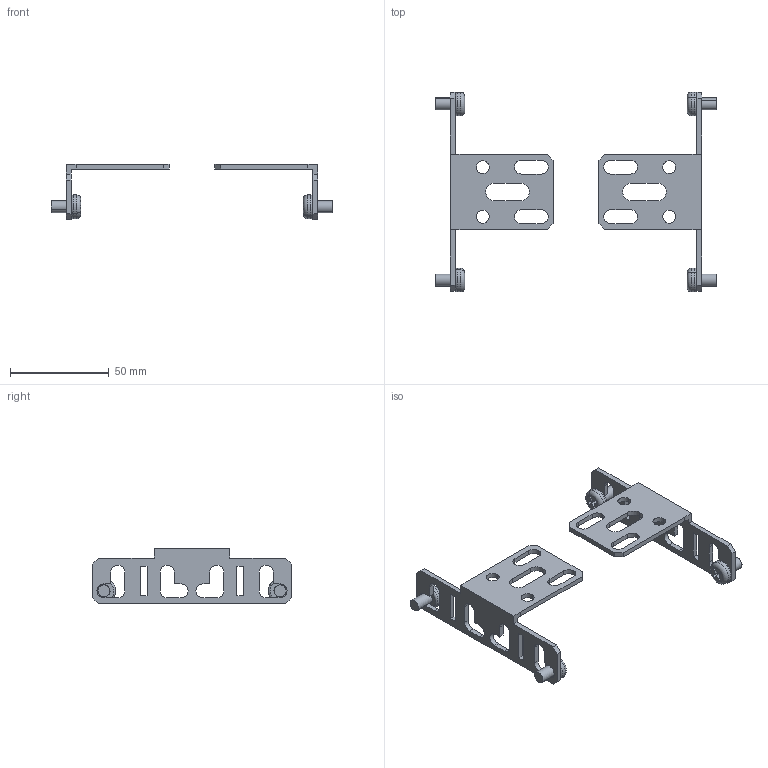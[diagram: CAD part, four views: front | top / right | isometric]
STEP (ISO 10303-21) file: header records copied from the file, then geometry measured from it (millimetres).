
FILE_DESCRIPTION (( 'STEP AP214' ), '1' );
FILE_NAME ('FO-00-BPRM-1 Êðîíøòåéí ïðîôèëÿ ìîíòàæíîãî 50?25 òèïà 1 (2 øò.óïàê.).STEP', '2025-08-04T10:21:12', ( '' ), ( '' ), 'SwSTEP 2.0', 'SolidWorks 2023', '' );
FILE_SCHEMA (( 'AUTOMOTIVE_DESIGN' ));
Length unit declared in the file: millimetre
Products named in the file (3): Кронштейн профиля монтажного 50×25 типа 1; FO-00-BPRM-1 Кронштейн профиля монтажного 50×25 типа 1 (2 шт.упак.); Винт М6х10 IEK
Assembly tree (6 placements, depth 2):
  FO-00-BPRM-1 Кронштейн профиля монтажного 50×25 типа 1 (2 шт.упак.)
    Кронштейн профиля монтажного 50×25 типа 1  x2
    Винт М6х10 IEK  x4
Bounding box: 142.15 x 100.99 x 28 mm (x, y, z)
Volume: 18876.9 mm3; surface area: 19252.6 mm2
Topology: 6 solids, 6 shells, 274 faces, 738 edges, 484 vertices
Faces by surface type: plane 148, cylinder 66, cone 44, torus 16
Entity records: 3568 total; most frequent: CARTESIAN_POINT 627, DIRECTION 602, ORIENTED_EDGE 588, EDGE_CURVE 294, AXIS2_PLACEMENT_3D 201, LINE 200, VECTOR 200, VERTEX_POINT 194
